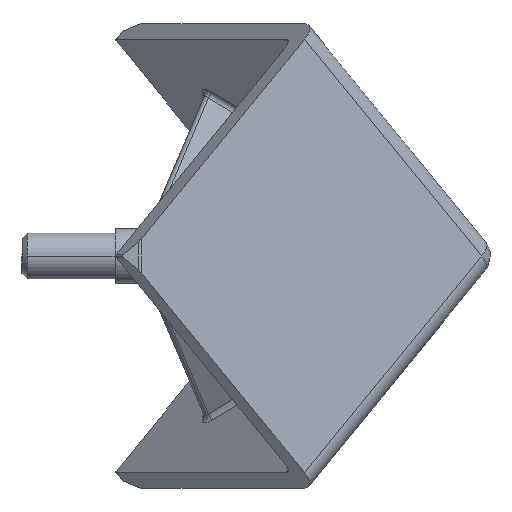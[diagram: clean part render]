
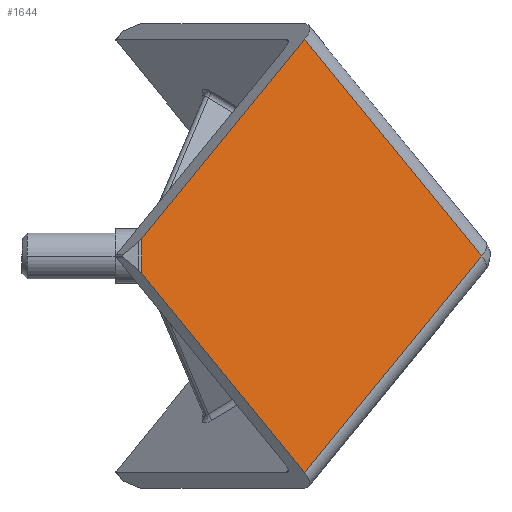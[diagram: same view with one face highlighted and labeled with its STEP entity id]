
A CAD part, front view. The second image highlights one B-rep face of the part: STEP entity #1644.
In plain terms, the highlighted planar face has unit normal (0.577, -0.817, 0).
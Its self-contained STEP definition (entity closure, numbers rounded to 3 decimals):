
#49 = FACE_OUTER_BOUND ( 'NONE', #3167, .T. ) ;
#69 = AXIS2_PLACEMENT_3D ( 'NONE', #2718, #2990, #3313 ) ;
#74 = ORIENTED_EDGE ( 'NONE', *, *, #1857, .F. ) ;
#111 = VECTOR ( 'NONE', #132, 1000. ) ;
#132 = DIRECTION ( 'NONE',  ( -0.577, -0.408, -0.707 ) ) ;
#264 = CARTESIAN_POINT ( 'NONE',  ( -18.475, -13.064, -19.799 ) ) ;
#484 = CARTESIAN_POINT ( 'NONE',  ( -1.155, -0.816, -1.414 ) ) ;
#510 = LINE ( 'NONE', #2423, #2717 ) ;
#699 = LINE ( 'NONE', #484, #1016 ) ;
#999 = VERTEX_POINT ( 'NONE', #1340 ) ;
#1016 = VECTOR ( 'NONE', #2248, 1000. ) ;
#1180 = VECTOR ( 'NONE', #1654, 1000. ) ;
#1197 = VECTOR ( 'NONE', #1884, 1000. ) ;
#1208 = CARTESIAN_POINT ( 'NONE',  ( -33.346, -23.579, -1.414 ) ) ;
#1306 = CARTESIAN_POINT ( 'NONE',  ( -33.346, -23.579, 1.586 ) ) ;
#1340 = CARTESIAN_POINT ( 'NONE',  ( -33.346, -23.579, -1.586 ) ) ;
#1499 = EDGE_CURVE ( 'NONE', #2766, #2206, #2562, .T. ) ;
#1644 = ADVANCED_FACE ( 'NONE', ( #49 ), #2407, .F. ) ;
#1654 = DIRECTION ( 'NONE',  ( -0.577, -0.408, -0.707 ) ) ;
#1747 = LINE ( 'NONE', #2191, #111 ) ;
#1857 = EDGE_CURVE ( 'NONE', #2206, #999, #510, .T. ) ;
#1870 = EDGE_CURVE ( 'NONE', #999, #3201, #2247, .T. ) ;
#1884 = DIRECTION ( 'NONE',  ( 0., 0., 1. ) ) ;
#1924 = EDGE_CURVE ( 'NONE', #3328, #3201, #1747, .T. ) ;
#2054 = EDGE_CURVE ( 'NONE', #3328, #2766, #699, .T. ) ;
#2078 = ORIENTED_EDGE ( 'NONE', *, *, #1870, .F. ) ;
#2191 = CARTESIAN_POINT ( 'NONE',  ( -18.475, -13.064, 19.799 ) ) ;
#2206 = VERTEX_POINT ( 'NONE', #264 ) ;
#2247 = LINE ( 'NONE', #1208, #1197 ) ;
#2248 = DIRECTION ( 'NONE',  ( 0.577, 0.408, -0.707 ) ) ;
#2264 = CARTESIAN_POINT ( 'NONE',  ( -2.309, -1.633, 0. ) ) ;
#2407 = PLANE ( 'NONE',  #69 ) ;
#2423 = CARTESIAN_POINT ( 'NONE',  ( -18.475, -13.064, -19.799 ) ) ;
#2435 = CARTESIAN_POINT ( 'NONE',  ( -2.309, -1.633, 0. ) ) ;
#2499 = ORIENTED_EDGE ( 'NONE', *, *, #2054, .F. ) ;
#2562 = LINE ( 'NONE', #2264, #1180 ) ;
#2717 = VECTOR ( 'NONE', #2719, 1000. ) ;
#2718 = CARTESIAN_POINT ( 'NONE',  ( -1.155, -0.816, -1.414 ) ) ;
#2719 = DIRECTION ( 'NONE',  ( -0.577, -0.408, 0.707 ) ) ;
#2766 = VERTEX_POINT ( 'NONE', #2435 ) ;
#2838 = ORIENTED_EDGE ( 'NONE', *, *, #1924, .T. ) ;
#2990 = DIRECTION ( 'NONE',  ( -0.577, 0.816, 0. ) ) ;
#3167 = EDGE_LOOP ( 'NONE', ( #2078, #74, #3188, #2499, #2838 ) ) ;
#3188 = ORIENTED_EDGE ( 'NONE', *, *, #1499, .F. ) ;
#3201 = VERTEX_POINT ( 'NONE', #1306 ) ;
#3224 = CARTESIAN_POINT ( 'NONE',  ( -18.475, -13.064, 19.799 ) ) ;
#3313 = DIRECTION ( 'NONE',  ( -0.816, -0.577, 0. ) ) ;
#3328 = VERTEX_POINT ( 'NONE', #3224 ) ;
